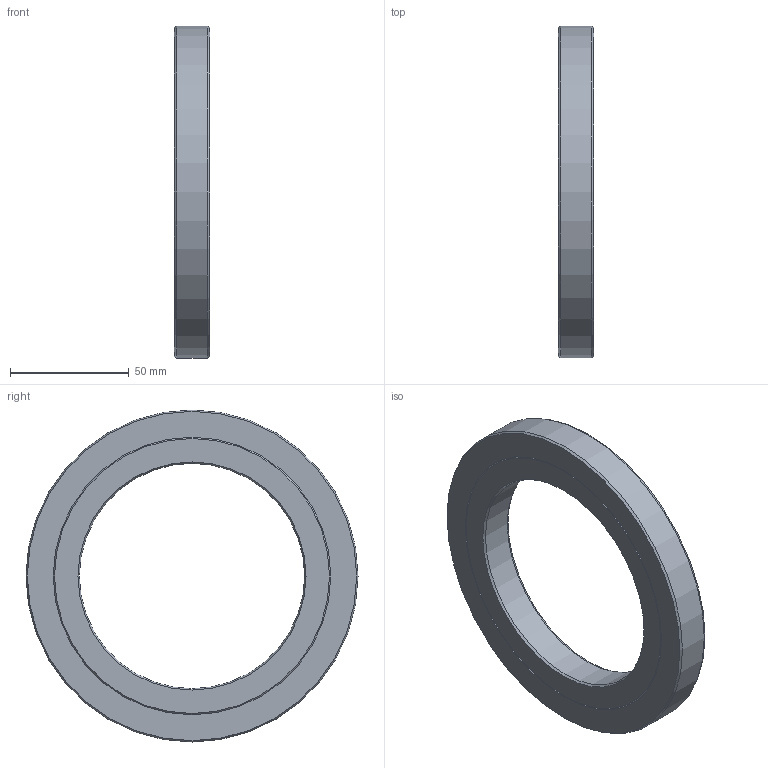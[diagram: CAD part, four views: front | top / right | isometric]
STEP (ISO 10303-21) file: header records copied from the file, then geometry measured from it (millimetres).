
FILE_DESCRIPTION(/* description */ (''),/* implementation_level */ '2;1');
FILE_NAME(/* name */ '301973 SA 95x140x15.stp',/* time_stamp */ '2016-12-16T16:01:13+01:00',/* author */ (''),/* organization */ (''),/* preprocessor_version */ 'ST-DEVELOPER v15',/* originating_system */ 'SIEMENS PLM Software NX 8.5',/* authorisation */ '');
FILE_SCHEMA (('CONFIG_CONTROL_DESIGN'));
Length unit declared in the file: millimetre
Products named in the file (1): ATE0000144_01
Bounding box: 15 x 140 x 140 mm (x, y, z)
Volume: 120998.6 mm3; surface area: 41312.5 mm2
Topology: 2 solids, 2 shells, 18 faces, 37 edges, 23 vertices
Faces by surface type: cone 10, plane 5, cylinder 3
Full cylindrical faces by diameter (mm): 95 x1, 140 x1
Entity records: 496 total; most frequent: CARTESIAN_POINT 78, DIRECTION 76, ORIENTED_EDGE 46, AXIS2_PLACEMENT_3D 38, EDGE_LOOP 33, FACE_BOUND 30, EDGE_CURVE 23, VERTEX_POINT 20
